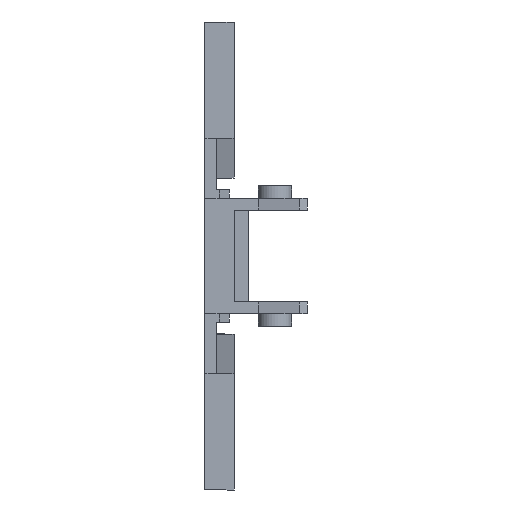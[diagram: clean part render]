
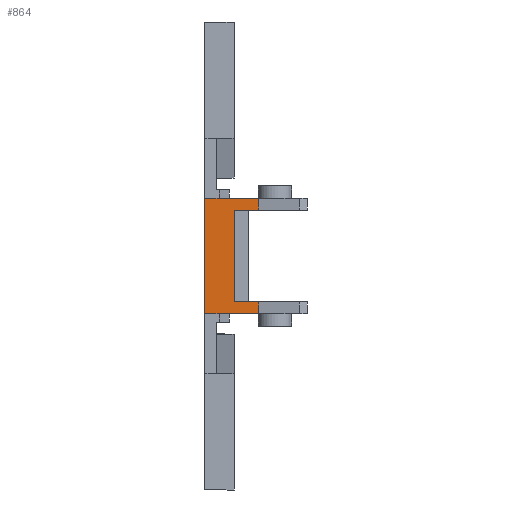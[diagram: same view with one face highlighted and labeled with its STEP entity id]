
A CAD part, front view. The second image highlights one B-rep face of the part: STEP entity #864.
In plain terms, the highlighted planar face has unit normal (0, -1, 0).
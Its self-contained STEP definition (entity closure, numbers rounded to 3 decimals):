
#46 = EDGE_CURVE ( 'NONE', #2701, #1845, #2740, .T. ) ;
#146 = EDGE_LOOP ( 'NONE', ( #236, #2340, #477, #2464, #1784, #1085, #2108, #890 ) ) ;
#236 = ORIENTED_EDGE ( 'NONE', *, *, #3266, .F. ) ;
#258 = CARTESIAN_POINT ( 'NONE',  ( 10.5, -25.55, 5.9 ) ) ;
#266 = DIRECTION ( 'NONE',  ( 1., 0., 0. ) ) ;
#354 = VECTOR ( 'NONE', #3427, 1000. ) ;
#372 = CARTESIAN_POINT ( 'NONE',  ( 5.523, -25.55, 67.733 ) ) ;
#477 = ORIENTED_EDGE ( 'NONE', *, *, #1342, .F. ) ;
#575 = EDGE_CURVE ( 'NONE', #1609, #1819, #702, .T. ) ;
#577 = CARTESIAN_POINT ( 'NONE',  ( 5.523, -25.55, 5.9 ) ) ;
#607 = PLANE ( 'NONE',  #1207 ) ;
#702 = LINE ( 'NONE', #2605, #1647 ) ;
#805 = VECTOR ( 'NONE', #2980, 1000. ) ;
#864 = ADVANCED_FACE ( 'NONE', ( #2180 ), #607, .T. ) ;
#890 = ORIENTED_EDGE ( 'NONE', *, *, #1068, .F. ) ;
#893 = VECTOR ( 'NONE', #2156, 1000. ) ;
#913 = VERTEX_POINT ( 'NONE', #3064 ) ;
#931 = CARTESIAN_POINT ( 'NONE',  ( 3., -25.55, 4.7 ) ) ;
#949 = DIRECTION ( 'NONE',  ( 0., 0., -1. ) ) ;
#1016 = LINE ( 'NONE', #372, #893 ) ;
#1068 = EDGE_CURVE ( 'NONE', #1799, #2701, #1225, .T. ) ;
#1085 = ORIENTED_EDGE ( 'NONE', *, *, #3090, .T. ) ;
#1207 = AXIS2_PLACEMENT_3D ( 'NONE', #2732, #1665, #1929 ) ;
#1225 = LINE ( 'NONE', #2347, #354 ) ;
#1342 = EDGE_CURVE ( 'NONE', #3108, #913, #1016, .T. ) ;
#1365 = CARTESIAN_POINT ( 'NONE',  ( 0., -25.55, -5.9 ) ) ;
#1376 = CARTESIAN_POINT ( 'NONE',  ( 5.523, -25.55, -5.9 ) ) ;
#1404 = CARTESIAN_POINT ( 'NONE',  ( 5.523, -25.55, 67.733 ) ) ;
#1609 = VERTEX_POINT ( 'NONE', #2581 ) ;
#1633 = DIRECTION ( 'NONE',  ( -1., 0., 0. ) ) ;
#1647 = VECTOR ( 'NONE', #1764, 1000. ) ;
#1665 = DIRECTION ( 'NONE',  ( 0., -1., 0. ) ) ;
#1764 = DIRECTION ( 'NONE',  ( 0., 0., -1. ) ) ;
#1784 = ORIENTED_EDGE ( 'NONE', *, *, #575, .T. ) ;
#1799 = VERTEX_POINT ( 'NONE', #1852 ) ;
#1819 = VERTEX_POINT ( 'NONE', #1365 ) ;
#1845 = VERTEX_POINT ( 'NONE', #1376 ) ;
#1852 = CARTESIAN_POINT ( 'NONE',  ( 3., -25.55, -4.7 ) ) ;
#1929 = DIRECTION ( 'NONE',  ( -1., 0., 0. ) ) ;
#2108 = ORIENTED_EDGE ( 'NONE', *, *, #46, .F. ) ;
#2155 = CARTESIAN_POINT ( 'NONE',  ( 1.5, -25.55, -5.9 ) ) ;
#2156 = DIRECTION ( 'NONE',  ( 0., 0., -1. ) ) ;
#2180 = FACE_OUTER_BOUND ( 'NONE', #146, .T. ) ;
#2211 = LINE ( 'NONE', #2155, #805 ) ;
#2248 = VECTOR ( 'NONE', #3293, 1000. ) ;
#2340 = ORIENTED_EDGE ( 'NONE', *, *, #3028, .T. ) ;
#2347 = CARTESIAN_POINT ( 'NONE',  ( 10.5, -25.55, -4.7 ) ) ;
#2371 = LINE ( 'NONE', #3182, #2759 ) ;
#2425 = EDGE_CURVE ( 'NONE', #3108, #1609, #3144, .T. ) ;
#2464 = ORIENTED_EDGE ( 'NONE', *, *, #2425, .T. ) ;
#2481 = VECTOR ( 'NONE', #949, 1000. ) ;
#2484 = CARTESIAN_POINT ( 'NONE',  ( 3., -25.55, -5.9 ) ) ;
#2581 = CARTESIAN_POINT ( 'NONE',  ( 0., -25.55, 5.9 ) ) ;
#2605 = CARTESIAN_POINT ( 'NONE',  ( 0., -25.55, 15.37 ) ) ;
#2671 = LINE ( 'NONE', #2484, #2248 ) ;
#2701 = VERTEX_POINT ( 'NONE', #3050 ) ;
#2732 = CARTESIAN_POINT ( 'NONE',  ( 10.5, -25.55, -5.9 ) ) ;
#2740 = LINE ( 'NONE', #1404, #2481 ) ;
#2759 = VECTOR ( 'NONE', #266, 1000. ) ;
#2933 = VECTOR ( 'NONE', #1633, 1000. ) ;
#2980 = DIRECTION ( 'NONE',  ( 1., 0., 0. ) ) ;
#3028 = EDGE_CURVE ( 'NONE', #3313, #913, #2371, .T. ) ;
#3050 = CARTESIAN_POINT ( 'NONE',  ( 5.523, -25.55, -4.7 ) ) ;
#3064 = CARTESIAN_POINT ( 'NONE',  ( 5.523, -25.55, 4.7 ) ) ;
#3090 = EDGE_CURVE ( 'NONE', #1819, #1845, #2211, .T. ) ;
#3108 = VERTEX_POINT ( 'NONE', #577 ) ;
#3144 = LINE ( 'NONE', #258, #2933 ) ;
#3182 = CARTESIAN_POINT ( 'NONE',  ( 10.5, -25.55, 4.7 ) ) ;
#3266 = EDGE_CURVE ( 'NONE', #3313, #1799, #2671, .T. ) ;
#3293 = DIRECTION ( 'NONE',  ( 0., 0., -1. ) ) ;
#3313 = VERTEX_POINT ( 'NONE', #931 ) ;
#3427 = DIRECTION ( 'NONE',  ( 1., 0., 0. ) ) ;
